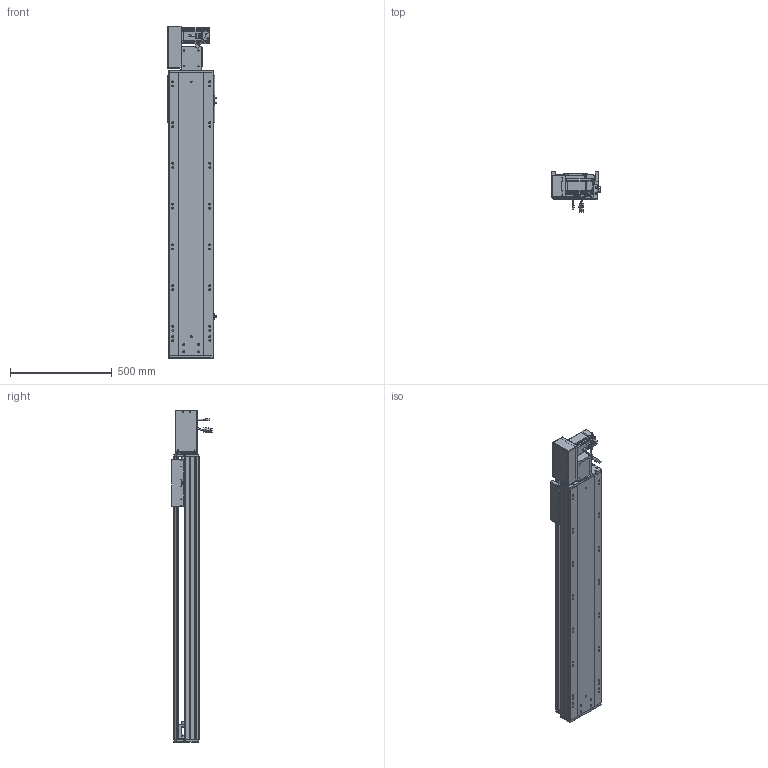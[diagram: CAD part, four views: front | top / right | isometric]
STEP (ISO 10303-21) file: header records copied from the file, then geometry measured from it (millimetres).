
FILE_DESCRIPTION (( 'STEP AP203' ), '1' );
FILE_NAME ('RY220-T-300-LK.SLDASM_1050.step', '2022-07-25T08:13:57', ( '' ), ( '' ), 'SwSTEP 2.0', 'SolidWorks 2016', '' );
FILE_SCHEMA (( 'CONFIG_CONTROL_DESIGN' ));
Length unit declared in the file: millimetre
Products named in the file (14): RY220-T-300-LK.SLDASM_1050; RY220-T-300-奻裔啣_1050; 怢湛750W_ECMA-CX0807ES; RY220翋肮祭謫釱; RY220-俋离672覜茼んえ; 滅袉蝶18-15; 110A-T-肮祭謫釱傷裔; RY220翋肮祭謫裔啣; RY220圉猾敕々湍臏賑輸; RY220-T-蛌殏萇儂假蚾啣(750W); RY220-T-湍謫欶(鍼踢); RY220-同步轮副支撑座6304×2; RY220-T菁釱-300_1050; 覜茼ん672
Assembly tree (18 placements, depth 2):
  RY220-T-300-LK.SLDASM_1050
    RY220-T菁釱-300_1050
    RY220翋肮祭謫釱
    覜茼ん672  x3
    RY220圉猾敕々湍臏賑輸
    RY220-T-300-奻裔啣_1050
    RY220-俋离672覜茼んえ
    滅袉蝶18-15  x3
    RY220翋肮祭謫裔啣  x2
    110A-T-肮祭謫釱傷裔
    怢湛750W_ECMA-CX0807ES
    RY220-T-湍謫欶(鍼踢)
    RY220-T-蛌殏萇儂假蚾啣(750W)
    RY220-同步轮副支撑座6304×2
Bounding box: 239.7 x 198.77 x 1629 mm (x, y, z)
Volume: 12580249.4 mm3; surface area: 3686665.4 mm2
Topology: 19 solids, 19 shells, 2646 faces, 7303 edges, 4632 vertices
Faces by surface type: cylinder 1242, plane 1069, cone 253, bspline 56, sphere 16, torus 10
Entity records: 88083 total; most frequent: CARTESIAN_POINT 25133, ORIENTED_EDGE 13082, DIRECTION 12368, EDGE_CURVE 6541, AXIS2_PLACEMENT_3D 4376, VERTEX_POINT 4256, LINE 3616, VECTOR 3616
